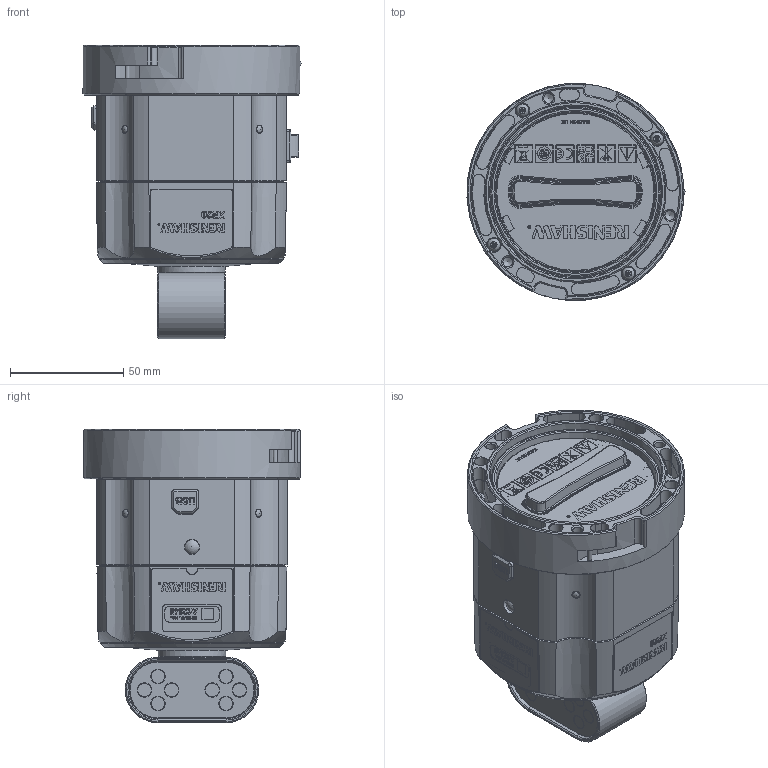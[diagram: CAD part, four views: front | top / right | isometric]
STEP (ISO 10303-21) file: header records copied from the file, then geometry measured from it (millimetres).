
FILE_DESCRIPTION(/* description */ (''),/* implementation_level */ '2;1');
FILE_NAME(/* name */ 'LA-9920-1400 XR20 ASSY LIGHTWEIGHT.stp',/* time_stamp */ '2022-08-05T10:50:08+01:00',/* author */ (''),/* organization */ (''),/* preprocessor_version */ 'ST-DEVELOPER v16.7',/* originating_system */ 'SIEMENS PLM Software NX 1946',/* authorisation */ '');
FILE_SCHEMA (('AP203_CONFIGURATION_CONTROLLED_3D_DESIGN_OF_MECHANICAL_PARTS_AND_ASSEMBLIES_MIM_LF { 1 0 10303 403 2 1 2}'));
Length unit declared in the file: millimetre
Products named in the file (1): RAH2-A-9920-1401-A_XR20 ASSY LIGHTWEIGHT
Bounding box: 96.38 x 95.84 x 129.77 mm (x, y, z)
Volume: 581310.6 mm3; surface area: 118518.3 mm2
Topology: 1 solids, 18 shells, 1899 faces, 6412 edges, 4835 vertices
Faces by surface type: plane 842, cylinder 522, cone 177, extrusion 160, bspline 78, torus 78, sphere 42
Full cylindrical faces by diameter (mm): 0.57 x4, 1.7 x4, 1.8 x2, 2 x2, 2.02 x2, 2.2 x4, 2.545 x2, 2.6 x4, 2.8 x4, 2.925 x1, 3 x8, 3.1 x2, 3.4 x4, 3.5 x4, 3.6 x4, 4.3 x3, 4.8 x1, 5.7 x4, 6 x13, 6.5 x8, 6.8 x1, 10.2 x1, 15 x1, 20 x2, 20.6 x1, 21 x1, 21.9 x2, 23.4 x1, 23.8 x2, 28.8 x1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
Entity records: 85807 total; most frequent: CARTESIAN_POINT 22572, ORIENTED_EDGE 12232, DIRECTION 10113, EDGE_CURVE 6116, VERTEX_POINT 4742, VECTOR 3451, AXIS2_PLACEMENT_3D 3331, LINE 3291
